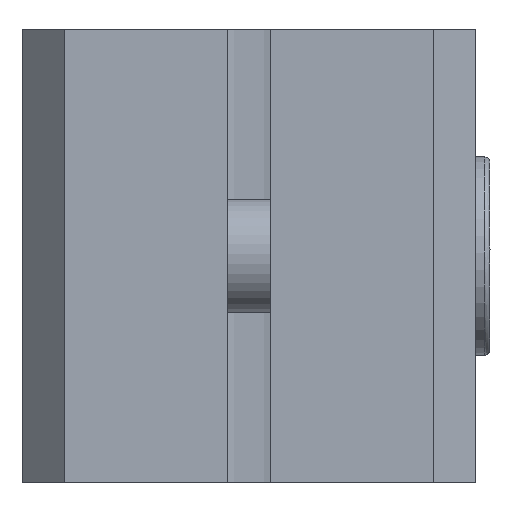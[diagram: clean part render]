
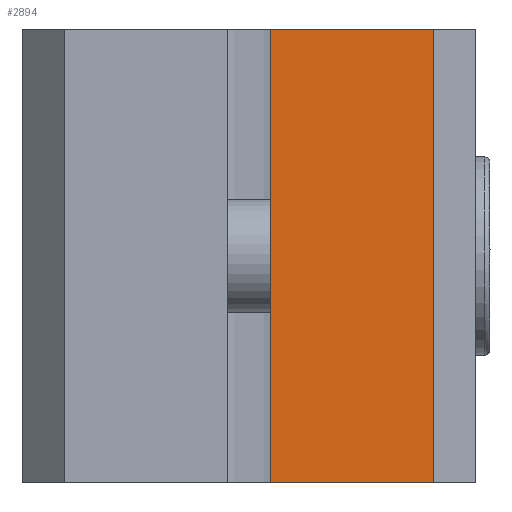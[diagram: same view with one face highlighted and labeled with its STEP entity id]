
A CAD part, left-side view. The second image highlights one B-rep face of the part: STEP entity #2894.
In plain terms, the highlighted planar face has unit normal (-1, 0, 0).
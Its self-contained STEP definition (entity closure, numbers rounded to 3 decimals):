
#161 = PLANE ( 'NONE',  #2243 ) ;
#276 = LINE ( 'NONE', #10410, #4008 ) ;
#506 = VERTEX_POINT ( 'NONE', #3048 ) ;
#1034 = VECTOR ( 'NONE', #5319, 1000. ) ;
#2000 = CARTESIAN_POINT ( 'NONE',  ( -69.05, 16.695, 8. ) ) ;
#2115 = VERTEX_POINT ( 'NONE', #11789 ) ;
#2243 = AXIS2_PLACEMENT_3D ( 'NONE', #2649, #5564, #4677 ) ;
#2649 = CARTESIAN_POINT ( 'NONE',  ( -69.05, 16.695, -8. ) ) ;
#2894 = ADVANCED_FACE ( 'NONE', ( #10834 ), #161, .T. ) ;
#3048 = CARTESIAN_POINT ( 'NONE',  ( -69.05, 22.445, -8. ) ) ;
#3072 = LINE ( 'NONE', #3786, #8928 ) ;
#3331 = VERTEX_POINT ( 'NONE', #6857 ) ;
#3786 = CARTESIAN_POINT ( 'NONE',  ( -69.05, 23.195, 8. ) ) ;
#3952 = DIRECTION ( 'NONE',  ( 0., -1., 0. ) ) ;
#4008 = VECTOR ( 'NONE', #3952, 1000. ) ;
#4214 = ORIENTED_EDGE ( 'NONE', *, *, #11228, .T. ) ;
#4607 = CARTESIAN_POINT ( 'NONE',  ( -69.05, 22.445, 0. ) ) ;
#4677 = DIRECTION ( 'NONE',  ( 0., 0., 1. ) ) ;
#5319 = DIRECTION ( 'NONE',  ( 0., 0., 1. ) ) ;
#5564 = DIRECTION ( 'NONE',  ( -1., 0., 0. ) ) ;
#6651 = DIRECTION ( 'NONE',  ( 0., -1., 0. ) ) ;
#6730 = VERTEX_POINT ( 'NONE', #2000 ) ;
#6857 = CARTESIAN_POINT ( 'NONE',  ( -69.05, 22.445, 8. ) ) ;
#7703 = ORIENTED_EDGE ( 'NONE', *, *, #7798, .T. ) ;
#7798 = EDGE_CURVE ( 'NONE', #506, #2115, #276, .T. ) ;
#7962 = ORIENTED_EDGE ( 'NONE', *, *, #9182, .T. ) ;
#8243 = DIRECTION ( 'NONE',  ( 0., 0., -1. ) ) ;
#8928 = VECTOR ( 'NONE', #6651, 1000. ) ;
#9182 = EDGE_CURVE ( 'NONE', #3331, #506, #10887, .T. ) ;
#9642 = ORIENTED_EDGE ( 'NONE', *, *, #9715, .F. ) ;
#9659 = VECTOR ( 'NONE', #8243, 1000. ) ;
#9715 = EDGE_CURVE ( 'NONE', #3331, #6730, #3072, .T. ) ;
#9799 = LINE ( 'NONE', #9863, #1034 ) ;
#9863 = CARTESIAN_POINT ( 'NONE',  ( -69.05, 16.695, 0. ) ) ;
#10410 = CARTESIAN_POINT ( 'NONE',  ( -69.05, 23.195, -8. ) ) ;
#10821 = EDGE_LOOP ( 'NONE', ( #9642, #7962, #7703, #4214 ) ) ;
#10834 = FACE_OUTER_BOUND ( 'NONE', #10821, .T. ) ;
#10887 = LINE ( 'NONE', #4607, #9659 ) ;
#11228 = EDGE_CURVE ( 'NONE', #2115, #6730, #9799, .T. ) ;
#11789 = CARTESIAN_POINT ( 'NONE',  ( -69.05, 16.695, -8. ) ) ;
